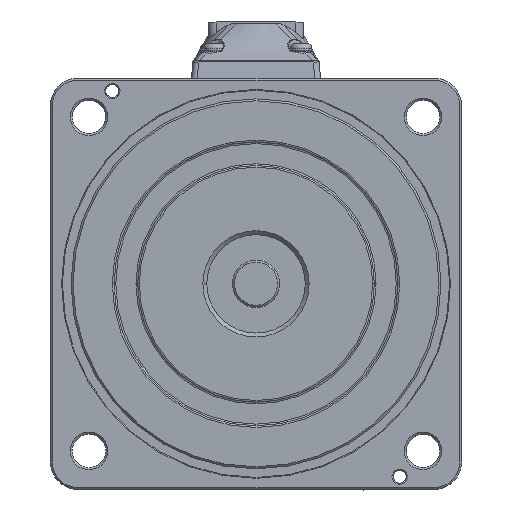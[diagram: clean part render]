
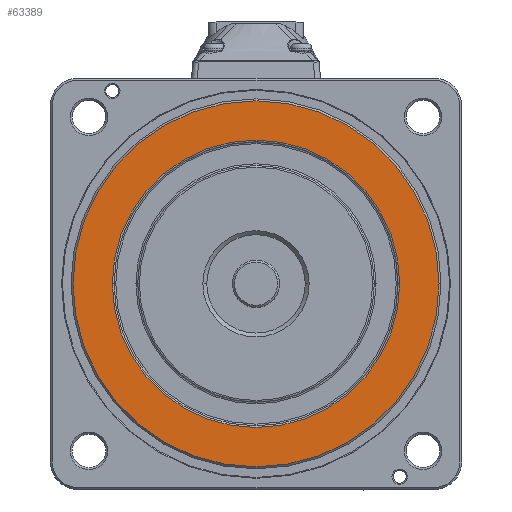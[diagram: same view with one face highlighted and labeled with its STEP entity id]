
A CAD part, top view. The second image highlights one B-rep face of the part: STEP entity #63389.
In plain terms, the highlighted planar face has unit normal (0, 0, 1) as drawn and (0, 0, -1) by its records, which use the part's own axes.
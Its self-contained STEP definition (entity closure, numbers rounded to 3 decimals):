
#385 = DIRECTION ( 'NONE',  ( 0., 0., -1. ) ) ;
#820 = FACE_BOUND ( 'NONE', #80466, .T. ) ;
#1654 = AXIS2_PLACEMENT_3D ( 'NONE', #50138, #62181, #4725 ) ;
#4257 = DIRECTION ( 'NONE',  ( 0., 0., 1. ) ) ;
#4725 = DIRECTION ( 'NONE',  ( 1., 0., 0. ) ) ;
#8247 = CIRCLE ( 'NONE', #1654, 36.5 ) ;
#8466 = CARTESIAN_POINT ( 'NONE',  ( -46.5, 0., -12. ) ) ;
#9541 = DIRECTION ( 'NONE',  ( 0., 0., 1. ) ) ;
#9915 = AXIS2_PLACEMENT_3D ( 'NONE', #82431, #385, #25823 ) ;
#10784 = EDGE_CURVE ( 'NONE', #66820, #63165, #56485, .T. ) ;
#13147 = CIRCLE ( 'NONE', #18505, 46.5 ) ;
#14817 = VERTEX_POINT ( 'NONE', #8466 ) ;
#15314 = CIRCLE ( 'NONE', #61879, 46.5 ) ;
#18505 = AXIS2_PLACEMENT_3D ( 'NONE', #27487, #9541, #27887 ) ;
#23132 = EDGE_CURVE ( 'NONE', #63165, #66820, #8247, .T. ) ;
#24408 = ORIENTED_EDGE ( 'NONE', *, *, #23132, .F. ) ;
#24961 = VERTEX_POINT ( 'NONE', #50781 ) ;
#25823 = DIRECTION ( 'NONE',  ( 1., 0., 0. ) ) ;
#27487 = CARTESIAN_POINT ( 'NONE',  ( 0., 0., -12. ) ) ;
#27887 = DIRECTION ( 'NONE',  ( 1., 0., 0. ) ) ;
#35944 = CARTESIAN_POINT ( 'NONE',  ( 0., 0., -12. ) ) ;
#37934 = DIRECTION ( 'NONE',  ( 0., 0., 1. ) ) ;
#42369 = AXIS2_PLACEMENT_3D ( 'NONE', #70370, #37934, #64545 ) ;
#43160 = EDGE_LOOP ( 'NONE', ( #77543, #76760 ) ) ;
#48393 = CARTESIAN_POINT ( 'NONE',  ( -36.5, 0., -12. ) ) ;
#50138 = CARTESIAN_POINT ( 'NONE',  ( 0., 0., -12. ) ) ;
#50505 = CARTESIAN_POINT ( 'NONE',  ( 36.5, 0., -12. ) ) ;
#50781 = CARTESIAN_POINT ( 'NONE',  ( 46.5, 0., -12. ) ) ;
#56485 = CIRCLE ( 'NONE', #9915, 36.5 ) ;
#61879 = AXIS2_PLACEMENT_3D ( 'NONE', #35944, #4257, #79219 ) ;
#62181 = DIRECTION ( 'NONE',  ( 0., 0., -1. ) ) ;
#63165 = VERTEX_POINT ( 'NONE', #48393 ) ;
#63389 = ADVANCED_FACE ( 'NONE', ( #820, #75382 ), #76623, .F. ) ;
#63451 = EDGE_CURVE ( 'NONE', #14817, #24961, #13147, .T. ) ;
#64545 = DIRECTION ( 'NONE',  ( 1., 0., 0. ) ) ;
#66820 = VERTEX_POINT ( 'NONE', #50505 ) ;
#70370 = CARTESIAN_POINT ( 'NONE',  ( 0., 0., -12. ) ) ;
#75382 = FACE_OUTER_BOUND ( 'NONE', #43160, .T. ) ;
#76045 = ORIENTED_EDGE ( 'NONE', *, *, #10784, .F. ) ;
#76623 = PLANE ( 'NONE',  #42369 ) ;
#76760 = ORIENTED_EDGE ( 'NONE', *, *, #63451, .F. ) ;
#77543 = ORIENTED_EDGE ( 'NONE', *, *, #80027, .F. ) ;
#79219 = DIRECTION ( 'NONE',  ( 1., 0., 0. ) ) ;
#80027 = EDGE_CURVE ( 'NONE', #24961, #14817, #15314, .T. ) ;
#80466 = EDGE_LOOP ( 'NONE', ( #76045, #24408 ) ) ;
#82431 = CARTESIAN_POINT ( 'NONE',  ( 0., 0., -12. ) ) ;
